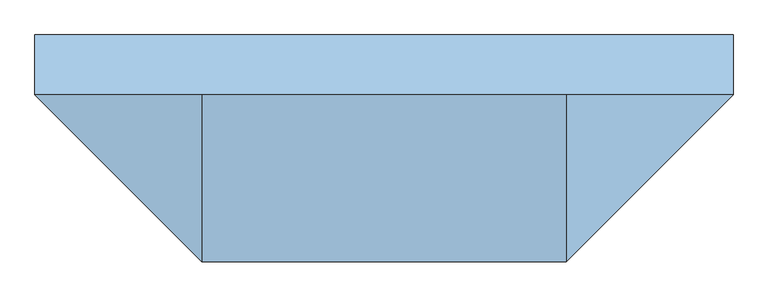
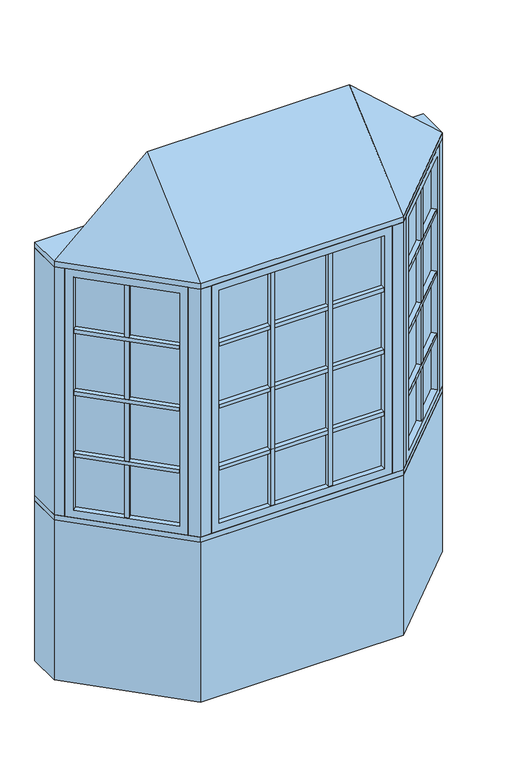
"""IFC4 building model written with IfcOpenShell, lengths in millimetres: window geometry, Pollard_Windows_Tudor Casement Bows and Bays : AML-BAY 45 AFR0512-08-500_GC."""

from ifc_helpers import new_model, si_unit, frame, origin, origin_with_axes, place, context, project, spatial, polyline, outline, extrude, faceted_brep, source, transform, mapped, element, save


def window_3b753958(model_context):
    return source(origin(), model_context, "Body", "SolidModel", [
        extrude(outline(polyline([(522.8614193, -437.1108753), (507.3050701, -421.5545261), (815.116171, -113.7434252), (830.6725202, -129.2997743), (522.8614193, -437.1108753)])), frame((0.0, 0.0, 1390.998), z_axis=(0.0, 0.0, 1.0), x_axis=(1.0, 0.0, 0.0)), (0.0, 0.0, 1.0), 18.0),
        extrude(outline(polyline([(503.7129677, -417.9624236), (488.1566185, -402.4060744), (795.9677194, -94.5949735), (811.5240686, -110.1513227), (503.7129677, -417.9624236)])), frame((0.0, 0.0, 1390.998), z_axis=(0.0, 0.0, 1.0), x_axis=(1.0, 0.0, 0.0)), (0.0, 0.0, 1.0), 18.0),
        extrude(outline(polyline([(522.8614193, -437.1108753), (507.3050701, -421.5545261), (815.116171, -113.7434252), (830.6725202, -129.2997743), (522.8614193, -437.1108753)])), frame((0.0, 0.0, 1090.998), z_axis=(0.0, 0.0, 1.0), x_axis=(1.0, 0.0, 0.0)), (0.0, 0.0, 1.0), 18.0),
        extrude(outline(polyline([(503.7129677, -417.9624236), (488.1566185, -402.4060744), (795.9677194, -94.5949735), (811.5240686, -110.1513227), (503.7129677, -417.9624236)])), frame((0.0, 0.0, 1090.998), z_axis=(0.0, 0.0, 1.0), x_axis=(1.0, 0.0, 0.0)), (0.0, 0.0, 1.0), 18.0),
        extrude(outline(polyline([(522.8614193, -437.1108753), (507.3050701, -421.5545261), (815.116171, -113.7434252), (830.6725202, -129.2997743), (522.8614193, -437.1108753)])), frame((0.0, 0.0, 1390.998), z_axis=(0.0, 0.0, 1.0), x_axis=(1.0, 0.0, 0.0)), (0.0, 0.0, 1.0), 18.0),
        extrude(outline(polyline([(503.7129677, -417.9624236), (488.1566185, -402.4060744), (795.9677194, -94.5949735), (811.5240686, -110.1513227), (503.7129677, -417.9624236)])), frame((0.0, 0.0, 1390.998), z_axis=(0.0, 0.0, 1.0), x_axis=(1.0, 0.0, 0.0)), (0.0, 0.0, 1.0), 18.0),
        extrude(outline(polyline([(522.8614193, -437.1108753), (507.3050701, -421.5545261), (815.116171, -113.7434252), (830.6725202, -129.2997743), (522.8614193, -437.1108753)])), frame((0.0, 0.0, 1390.998), z_axis=(0.0, 0.0, 1.0), x_axis=(1.0, 0.0, 0.0)), (0.0, 0.0, 1.0), 18.0),
        extrude(outline(polyline([(503.7129677, -417.9624236), (488.1566185, -402.4060744), (795.9677194, -94.5949735), (811.5240686, -110.1513227), (503.7129677, -417.9624236)])), frame((0.0, 0.0, 1390.998), z_axis=(0.0, 0.0, 1.0), x_axis=(1.0, 0.0, 0.0)), (0.0, 0.0, 1.0), 18.0),
        extrude(outline(polyline([(522.8614193, -437.1108753), (507.3050701, -421.5545261), (815.116171, -113.7434252), (830.6725202, -129.2997743), (522.8614193, -437.1108753)])), frame((0.0, 0.0, 1690.998), z_axis=(0.0, 0.0, 1.0), x_axis=(1.0, 0.0, 0.0)), (0.0, 0.0, 1.0), 18.0),
        extrude(outline(polyline([(503.7129677, -417.9624236), (488.1566185, -402.4060744), (795.9677194, -94.5949735), (811.5240686, -110.1513227), (503.7129677, -417.9624236)])), frame((0.0, 0.0, 1690.998), z_axis=(0.0, 0.0, 1.0), x_axis=(1.0, 0.0, 0.0)), (0.0, 0.0, 1.0), 18.0),
        extrude(outline(polyline([(667.5745816, -261.2850146), (683.1309308, -276.8413638), (670.4030087, -289.5692858), (654.8466595, -274.0129366), (667.5745816, -261.2850146)])), frame((0.0, 0.0, 835.8628), z_axis=(0.0, 0.0, 1.0), x_axis=(1.0, 0.0, 0.0)), (0.0, 0.0, 1.0), 1128.2704),
        extrude(outline(polyline([(663.9824791, -257.6929121), (651.2545571, -270.4208342), (635.6982079, -254.864485), (648.42613, -242.1365629), (663.9824791, -257.6929121)])), frame((0.0, 0.0, 835.8628), z_axis=(0.0, 0.0, 1.0), x_axis=(1.0, 0.0, 0.0)), (0.0, 0.0, 1.0), 1128.2704),
        extrude(outline(polyline([(824.0964271, -104.763169), (498.324814, -430.5347822), (494.7327115, -426.9426797), (820.5043247, -101.1710666), (824.0964271, -104.763169)])), frame((0.0, 0.0, 823.1628), z_axis=(0.0, 0.0, 1.0), x_axis=(1.0, 0.0, 0.0)), (0.0, 0.0, 1.0), 1153.6704),
        faceted_brep([(815.116171, -113.7434252, 835.8628), (833.0766833, -131.7039374, 835.8628), (833.0766833, -131.7039374, 1964.1332), (815.116171, -113.7434252, 1964.1332), (820.5043247, -101.1710666, 823.1628), (824.0964271, -104.763169, 823.1628), (824.0964271, -104.763169, 1976.8332), (820.5043247, -101.1710666, 1976.8332), (793.5635563, -92.1908105, 835.8628), (811.5240686, -110.1513227, 835.8628), (811.5240686, -110.1513227, 1964.1332), (793.5635563, -92.1908105, 1964.1332), (858.4369265, -106.3436941, 799.998), (818.9237996, -66.8305672, 799.998), (818.9237996, -66.8305672, 1999.998), (858.4369265, -106.3436941, 1999.998), (525.2655823, -439.5150383, 1964.1332), (507.3050701, -421.5545261, 1964.1332), (498.324814, -430.5347822, 1976.8332), (494.7327115, -426.9426797, 1976.8332), (503.7129677, -417.9624236, 1964.1332), (485.7524554, -400.0019114, 1964.1332), (460.3922121, -425.3621547, 1999.998), (499.9053391, -464.8752816, 1999.998), (525.2655823, -439.5150383, 835.8628), (507.3050701, -421.5545261, 835.8628), (498.324814, -430.5347822, 823.1628), (494.7327115, -426.9426797, 823.1628), (503.7129677, -417.9624236, 835.8628), (485.7524554, -400.0019114, 835.8628), (460.3922121, -425.3621547, 799.998), (499.9053391, -464.8752816, 799.998)], [[[0, 1, 2, 3]], [[4, 5, 6, 7]], [[8, 9, 10, 11]], [[12, 13, 14, 15]], [[3, 2, 16, 17]], [[7, 6, 18, 19]], [[11, 10, 20, 21]], [[15, 14, 22, 23]], [[17, 16, 24, 25]], [[19, 18, 26, 27]], [[21, 20, 28, 29]], [[23, 22, 30, 31]], [[25, 24, 1, 0]], [[5, 26, 18, 6], [3, 17, 25, 0]], [[27, 26, 5, 4]], [[7, 19, 27, 4], [9, 28, 20, 10]], [[29, 28, 9, 8]], [[13, 30, 22, 14], [11, 21, 29, 8]], [[31, 30, 13, 12]], [[15, 23, 31, 12], [1, 24, 16, 2]]]),
        extrude(outline(polyline([(142.4618667, -474.8306207), (142.4618667, -496.8306207), (124.4618667, -496.8306207), (124.4618667, -474.8306207), (142.4618667, -474.8306207)])), frame((0.0, 0.0, 835.8628), z_axis=(0.0, 0.0, 1.0), x_axis=(1.0, 0.0, 0.0)), (0.0, 0.0, 1.0), 1128.2704),
        extrude(outline(polyline([(142.4618667, -469.7506207), (124.4618667, -469.7506207), (124.4618667, -447.7506207), (142.4618667, -447.7506207), (142.4618667, -469.7506207)])), frame((0.0, 0.0, 835.8628), z_axis=(0.0, 0.0, 1.0), x_axis=(1.0, 0.0, 0.0)), (0.0, 0.0, 1.0), 1128.2704),
        extrude(outline(polyline([(-124.4618667, -474.8306207), (-124.4618667, -496.8306207), (-142.4618667, -496.8306207), (-142.4618667, -474.8306207), (-124.4618667, -474.8306207)])), frame((0.0, 0.0, 835.8628), z_axis=(0.0, 0.0, 1.0), x_axis=(1.0, 0.0, 0.0)), (0.0, 0.0, 1.0), 1128.2704),
        extrude(outline(polyline([(-124.4618667, -469.7506207), (-142.4618667, -469.7506207), (-142.4618667, -447.7506207), (-124.4618667, -447.7506207), (-124.4618667, -469.7506207)])), frame((0.0, 0.0, 835.8628), z_axis=(0.0, 0.0, 1.0), x_axis=(1.0, 0.0, 0.0)), (0.0, 0.0, 1.0), 1128.2704),
        extrude(outline(polyline([(-378.6852, -496.8306207), (-378.6852, -474.8306207), (378.6852, -474.8306207), (378.6852, -496.8306207), (-378.6852, -496.8306207)])), frame((0.0, 0.0, 1090.998), z_axis=(0.0, 0.0, 1.0), x_axis=(1.0, 0.0, 0.0)), (0.0, 0.0, 1.0), 18.0),
        extrude(outline(polyline([(-378.6852, -469.7506207), (-378.6852, -447.7506207), (378.6852, -447.7506207), (378.6852, -469.7506207), (-378.6852, -469.7506207)])), frame((0.0, 0.0, 1090.998), z_axis=(0.0, 0.0, 1.0), x_axis=(1.0, 0.0, 0.0)), (0.0, 0.0, 1.0), 18.0),
        extrude(outline(polyline([(-378.6852, -496.8306207), (-378.6852, -474.8306207), (378.6852, -474.8306207), (378.6852, -496.8306207), (-378.6852, -496.8306207)])), frame((0.0, 0.0, 1390.998), z_axis=(0.0, 0.0, 1.0), x_axis=(1.0, 0.0, 0.0)), (0.0, 0.0, 1.0), 18.0),
        extrude(outline(polyline([(-378.6852, -469.7506207), (-378.6852, -447.7506207), (378.6852, -447.7506207), (378.6852, -469.7506207), (-378.6852, -469.7506207)])), frame((0.0, 0.0, 1390.998), z_axis=(0.0, 0.0, 1.0), x_axis=(1.0, 0.0, 0.0)), (0.0, 0.0, 1.0), 18.0),
        extrude(outline(polyline([(-378.6852, -496.8306207), (-378.6852, -474.8306207), (378.6852, -474.8306207), (378.6852, -496.8306207), (-378.6852, -496.8306207)])), frame((0.0, 0.0, 1390.998), z_axis=(0.0, 0.0, 1.0), x_axis=(1.0, 0.0, 0.0)), (0.0, 0.0, 1.0), 18.0),
        extrude(outline(polyline([(-378.6852, -469.7506207), (-378.6852, -447.7506207), (378.6852, -447.7506207), (378.6852, -469.7506207), (-378.6852, -469.7506207)])), frame((0.0, 0.0, 1390.998), z_axis=(0.0, 0.0, 1.0), x_axis=(1.0, 0.0, 0.0)), (0.0, 0.0, 1.0), 18.0),
        extrude(outline(polyline([(-378.6852, -496.8306207), (-378.6852, -474.8306207), (378.6852, -474.8306207), (378.6852, -496.8306207), (-378.6852, -496.8306207)])), frame((0.0, 0.0, 1390.998), z_axis=(0.0, 0.0, 1.0), x_axis=(1.0, 0.0, 0.0)), (0.0, 0.0, 1.0), 18.0),
        extrude(outline(polyline([(-378.6852, -469.7506207), (-378.6852, -447.7506207), (378.6852, -447.7506207), (378.6852, -469.7506207), (-378.6852, -469.7506207)])), frame((0.0, 0.0, 1390.998), z_axis=(0.0, 0.0, 1.0), x_axis=(1.0, 0.0, 0.0)), (0.0, 0.0, 1.0), 18.0),
        extrude(outline(polyline([(-830.6725202, -129.2997743), (-815.116171, -113.7434252), (-507.3050701, -421.5545261), (-522.8614193, -437.1108753), (-830.6725202, -129.2997743)])), frame((0.0, 0.0, 1090.998), z_axis=(0.0, 0.0, 1.0), x_axis=(1.0, 0.0, 0.0)), (0.0, 0.0, 1.0), 18.0),
        extrude(outline(polyline([(-811.5240686, -110.1513227), (-795.9677194, -94.5949735), (-488.1566185, -402.4060744), (-503.7129677, -417.9624236), (-811.5240686, -110.1513227)])), frame((0.0, 0.0, 1090.998), z_axis=(0.0, 0.0, 1.0), x_axis=(1.0, 0.0, 0.0)), (0.0, 0.0, 1.0), 18.0),
        extrude(outline(polyline([(-830.6725202, -129.2997743), (-815.116171, -113.7434252), (-507.3050701, -421.5545261), (-522.8614193, -437.1108753), (-830.6725202, -129.2997743)])), frame((0.0, 0.0, 1390.998), z_axis=(0.0, 0.0, 1.0), x_axis=(1.0, 0.0, 0.0)), (0.0, 0.0, 1.0), 18.0),
        extrude(outline(polyline([(-811.5240686, -110.1513227), (-795.9677194, -94.5949735), (-488.1566185, -402.4060744), (-503.7129677, -417.9624236), (-811.5240686, -110.1513227)])), frame((0.0, 0.0, 1390.998), z_axis=(0.0, 0.0, 1.0), x_axis=(1.0, 0.0, 0.0)), (0.0, 0.0, 1.0), 18.0),
        extrude(outline(polyline([(-830.6725202, -129.2997743), (-815.116171, -113.7434252), (-507.3050701, -421.5545261), (-522.8614193, -437.1108753), (-830.6725202, -129.2997743)])), frame((0.0, 0.0, 1390.998), z_axis=(0.0, 0.0, 1.0), x_axis=(1.0, 0.0, 0.0)), (0.0, 0.0, 1.0), 18.0),
        extrude(outline(polyline([(-811.5240686, -110.1513227), (-795.9677194, -94.5949735), (-488.1566185, -402.4060744), (-503.7129677, -417.9624236), (-811.5240686, -110.1513227)])), frame((0.0, 0.0, 1390.998), z_axis=(0.0, 0.0, 1.0), x_axis=(1.0, 0.0, 0.0)), (0.0, 0.0, 1.0), 18.0),
        extrude(outline(polyline([(-830.6725202, -129.2997743), (-815.116171, -113.7434252), (-507.3050701, -421.5545261), (-522.8614193, -437.1108753), (-830.6725202, -129.2997743)])), frame((0.0, 0.0, 1390.998), z_axis=(0.0, 0.0, 1.0), x_axis=(1.0, 0.0, 0.0)), (0.0, 0.0, 1.0), 18.0),
        extrude(outline(polyline([(-811.5240686, -110.1513227), (-795.9677194, -94.5949735), (-488.1566185, -402.4060744), (-503.7129677, -417.9624236), (-811.5240686, -110.1513227)])), frame((0.0, 0.0, 1390.998), z_axis=(0.0, 0.0, 1.0), x_axis=(1.0, 0.0, 0.0)), (0.0, 0.0, 1.0), 18.0),
        extrude(outline(polyline([(-830.6725202, -129.2997743), (-815.116171, -113.7434252), (-507.3050701, -421.5545261), (-522.8614193, -437.1108753), (-830.6725202, -129.2997743)])), frame((0.0, 0.0, 1690.998), z_axis=(0.0, 0.0, 1.0), x_axis=(1.0, 0.0, 0.0)), (0.0, 0.0, 1.0), 18.0),
        extrude(outline(polyline([(-811.5240686, -110.1513227), (-795.9677194, -94.5949735), (-488.1566185, -402.4060744), (-503.7129677, -417.9624236), (-811.5240686, -110.1513227)])), frame((0.0, 0.0, 1690.998), z_axis=(0.0, 0.0, 1.0), x_axis=(1.0, 0.0, 0.0)), (0.0, 0.0, 1.0), 18.0),
        extrude(outline(polyline([(-378.6852, -496.8306207), (-378.6852, -474.8306207), (378.6852, -474.8306207), (378.6852, -496.8306207), (-378.6852, -496.8306207)])), frame((0.0, 0.0, 1690.998), z_axis=(0.0, 0.0, 1.0), x_axis=(1.0, 0.0, 0.0)), (0.0, 0.0, 1.0), 18.0),
        extrude(outline(polyline([(-378.6852, -469.7506207), (-378.6852, -447.7506207), (378.6852, -447.7506207), (378.6852, -469.7506207), (-378.6852, -469.7506207)])), frame((0.0, 0.0, 1690.998), z_axis=(0.0, 0.0, 1.0), x_axis=(1.0, 0.0, 0.0)), (0.0, 0.0, 1.0), 18.0),
        extrude(outline(polyline([(-654.8466595, -274.0129366), (-670.4030087, -289.5692858), (-683.1309308, -276.8413638), (-667.5745816, -261.2850146), (-654.8466595, -274.0129366)])), frame((0.0, 0.0, 835.8628), z_axis=(0.0, 0.0, 1.0), x_axis=(1.0, 0.0, 0.0)), (0.0, 0.0, 1.0), 1128.2704),
        extrude(outline(polyline([(-651.2545571, -270.4208342), (-663.9824791, -257.6929121), (-648.42613, -242.1365629), (-635.6982079, -254.864485), (-651.2545571, -270.4208342)])), frame((0.0, 0.0, 835.8628), z_axis=(0.0, 0.0, 1.0), x_axis=(1.0, 0.0, 0.0)), (0.0, 0.0, 1.0), 1128.2704),
        extrude(outline(polyline([(-498.324814, -430.5347822), (-824.0964271, -104.763169), (-820.5043247, -101.1710666), (-494.7327115, -426.9426797), (-498.324814, -430.5347822)])), frame((0.0, 0.0, 823.1628), z_axis=(0.0, 0.0, 1.0), x_axis=(1.0, 0.0, 0.0)), (0.0, 0.0, 1.0), 1153.6704),
        faceted_brep([(-503.7129677, -417.9624236, 1964.1332), (-485.7524554, -400.0019114, 1964.1332), (-485.7524554, -400.0019114, 835.8628), (-503.7129677, -417.9624236, 835.8628), (-498.324814, -430.5347822, 1976.8332), (-494.7327115, -426.9426797, 1976.8332), (-494.7327115, -426.9426797, 823.1628), (-498.324814, -430.5347822, 823.1628), (-525.2655823, -439.5150383, 1964.1332), (-507.3050701, -421.5545261, 1964.1332), (-507.3050701, -421.5545261, 835.8628), (-525.2655823, -439.5150383, 835.8628), (-460.3922121, -425.3621547, 1999.998), (-499.9053391, -464.8752816, 1999.998), (-499.9053391, -464.8752816, 799.998), (-460.3922121, -425.3621547, 799.998), (-793.5635563, -92.1908105, 835.8628), (-811.5240686, -110.1513227, 835.8628), (-820.5043247, -101.1710666, 823.1628), (-824.0964271, -104.763169, 823.1628), (-815.116171, -113.7434252, 835.8628), (-833.0766833, -131.7039374, 835.8628), (-858.4369265, -106.3436941, 799.998), (-818.9237996, -66.8305672, 799.998), (-793.5635563, -92.1908105, 1964.1332), (-811.5240686, -110.1513227, 1964.1332), (-820.5043247, -101.1710666, 1976.8332), (-824.0964271, -104.763169, 1976.8332), (-815.116171, -113.7434252, 1964.1332), (-833.0766833, -131.7039374, 1964.1332), (-858.4369265, -106.3436941, 1999.998), (-818.9237996, -66.8305672, 1999.998)], [[[0, 1, 2, 3]], [[4, 5, 6, 7]], [[8, 9, 10, 11]], [[12, 13, 14, 15]], [[3, 2, 16, 17]], [[7, 6, 18, 19]], [[11, 10, 20, 21]], [[15, 14, 22, 23]], [[17, 16, 24, 25]], [[19, 18, 26, 27]], [[21, 20, 28, 29]], [[23, 22, 30, 31]], [[15, 23, 31, 12], [1, 24, 16, 2]], [[25, 24, 1, 0]], [[5, 26, 18, 6], [3, 17, 25, 0]], [[27, 26, 5, 4]], [[7, 19, 27, 4], [9, 28, 20, 10]], [[29, 28, 9, 8]], [[13, 30, 22, 14], [11, 21, 29, 8]], [[31, 30, 13, 12]]]),
        extrude(outline(polyline([(391.3852, -474.8306207), (-391.3852, -474.8306207), (-391.3852, -469.7506207), (391.3852, -469.7506207), (391.3852, -474.8306207)])), frame((0.0, 0.0, 823.1628), z_axis=(0.0, 0.0, 1.0), x_axis=(1.0, 0.0, 0.0)), (0.0, 0.0, 1.0), 1153.6704),
        faceted_brep([(378.6852, -474.8306207, 835.8628), (378.6852, -500.2306207, 835.8628), (378.6852, -500.2306207, 1964.1332), (378.6852, -474.8306207, 1964.1332), (391.3852, -469.7506207, 823.1628), (391.3852, -474.8306207, 823.1628), (391.3852, -474.8306207, 1976.8332), (391.3852, -469.7506207, 1976.8332), (378.6852, -444.3506207, 835.8628), (378.6852, -469.7506207, 835.8628), (378.6852, -469.7506207, 1964.1332), (378.6852, -444.3506207, 1964.1332), (414.55, -500.2306207, 799.998), (414.55, -444.3506207, 799.998), (414.55, -444.3506207, 1999.998), (414.55, -500.2306207, 1999.998), (-378.6852, -500.2306207, 1964.1332), (-378.6852, -474.8306207, 1964.1332), (-391.3852, -474.8306207, 1976.8332), (-391.3852, -469.7506207, 1976.8332), (-378.6852, -469.7506207, 1964.1332), (-378.6852, -444.3506207, 1964.1332), (-414.55, -444.3506207, 1999.998), (-414.55, -500.2306207, 1999.998), (-378.6852, -500.2306207, 835.8628), (-378.6852, -474.8306207, 835.8628), (-391.3852, -474.8306207, 823.1628), (-391.3852, -469.7506207, 823.1628), (-378.6852, -469.7506207, 835.8628), (-378.6852, -444.3506207, 835.8628), (-414.55, -444.3506207, 799.998), (-414.55, -500.2306207, 799.998)], [[[0, 1, 2, 3]], [[4, 5, 6, 7]], [[8, 9, 10, 11]], [[12, 13, 14, 15]], [[3, 2, 16, 17]], [[7, 6, 18, 19]], [[11, 10, 20, 21]], [[15, 14, 22, 23]], [[17, 16, 24, 25]], [[19, 18, 26, 27]], [[21, 20, 28, 29]], [[23, 22, 30, 31]], [[15, 23, 31, 12], [1, 24, 16, 2]], [[25, 24, 1, 0]], [[5, 26, 18, 6], [3, 17, 25, 0]], [[27, 26, 5, 4]], [[7, 19, 27, 4], [9, 28, 20, 10]], [[29, 28, 9, 8]], [[13, 30, 22, 14], [11, 21, 29, 8]], [[31, 30, 13, 12]]]),
        faceted_brep([(890.0, -74.7806207, 2025.398), (464.55, -500.2306207, 2025.398), (-464.55, -500.2306207, 2025.398), (-890.0, -74.7806207, 2025.398), (-464.55, -74.7806207, 2406.398), (464.55, -74.7806207, 2406.398)], [[[0, 1, 2, 3]], [[3, 2, 4]], [[2, 1, 5, 4]], [[1, 0, 5]], [[0, 3, 4, 5]]]),
        extrude(outline(polyline([(-890.0, 77.6193793), (890.0, 77.6193793), (890.0, -74.7806207), (464.55, -500.2306207), (-464.55, -500.2306207), (-890.0, -74.7806207), (-890.0, 77.6193793)])), frame((0.0, 0.0, 1999.998), z_axis=(0.0, 0.0, 1.0), x_axis=(1.0, 0.0, 0.0)), (0.0, 0.0, 1.0), 25.4),
        extrude(outline(polyline([(-890.0, -74.7806207), (-890.0, 77.6193793), (-826.8738531, 77.6193793), (-826.8738531, -74.7806207), (-858.4369265, -106.3436941), (-890.0, -74.7806207)])), frame((0.0, 0.0, 799.998), z_axis=(0.0, 0.0, 1.0), x_axis=(1.0, 0.0, 0.0)), (0.0, 0.0, 1.0), 1200.0),
        extrude(outline(polyline([(890.0, 77.6193793), (890.0, -74.7806207), (858.4369265, -106.3436941), (826.8738531, -74.7806207), (826.8738531, 77.6193793), (890.0, 77.6193793)])), frame((0.0, 0.0, 799.998), z_axis=(0.0, 0.0, 1.0), x_axis=(1.0, 0.0, 0.0)), (0.0, 0.0, 1.0), 1200.0),
        extrude(outline(polyline([(464.55, -500.2306207), (414.55, -500.2306207), (414.55, -450.2306207), (443.8393219, -450.2306207), (464.55, -429.5199425), (499.9053391, -464.8752816), (464.55, -500.2306207)])), frame((0.0, 0.0, 799.998), z_axis=(0.0, 0.0, 1.0), x_axis=(1.0, 0.0, 0.0)), (0.0, 0.0, 1.0), 1200.0),
        extrude(outline(polyline([(-464.55, -500.2306207), (-499.9053391, -464.8752816), (-464.55, -429.5199425), (-443.8393219, -450.2306207), (-414.55, -450.2306207), (-414.55, -500.2306207), (-464.55, -500.2306207)])), frame((0.0, 0.0, 799.998), z_axis=(0.0, 0.0, 1.0), x_axis=(1.0, 0.0, 0.0)), (0.0, 0.0, 1.0), 1200.0),
        extrude(outline(polyline([(-464.55, -500.2306207), (-890.0, -74.7806207), (-890.0, 77.6193793), (-826.8738531, 77.6193793), (-401.4238531, -347.8306207), (401.4238531, -347.8306207), (826.8738531, 77.6193793), (890.0, 77.6193793), (890.0, -74.7806207), (464.55, -500.2306207), (-464.55, -500.2306207)])), frame((0.0, 0.0, 774.598), z_axis=(0.0, 0.0, 1.0), x_axis=(1.0, 0.0, 0.0)), (0.0, 0.0, 1.0), 25.4),
        extrude(outline(polyline([(-890.0, -74.7806207), (-890.0, 77.6193793), (-826.8738531, 77.6193793), (-401.4238531, -347.8306207), (401.4238531, -347.8306207), (826.8738531, 77.6193793), (890.0, 77.6193793), (890.0, -74.7806207), (464.55, -500.2306207), (-464.55, -500.2306207), (-890.0, -74.7806207)])), origin_with_axes(), (0.0, 0.0, 1.0), 774.598),
    ])


if __name__ == "__main__":
    model = new_model("IFC4")
    model_context = context("Model", 3, world=origin())
    ifc_project = project(units=[si_unit("LENGTHUNIT", "METRE", prefix="MILLI")], contexts=[model_context])
    site = spatial("IfcSite", under=ifc_project)
    building = spatial("IfcBuilding", under=site)
    placement = place(None, origin())
    window_shape = window_3b753958(model_context)
    element("IfcWindow", 1, ObjectType="Pollard_Windows_Tudor Casement Bows and Bays : AML-BAY 45 AFR0512-08-500_GC", at=placement, inside=building, context=model_context, shape_type="MappedRepresentation", body=[
        mapped(window_shape, transform((0.0, 0.0, 0.0), x_axis=(1.0, 0.0, 0.0), y_axis=(0.0, 1.0, 0.0), z_axis=(0.0, 0.0, 1.0))),
    ])
    save(model, "model.ifc")
